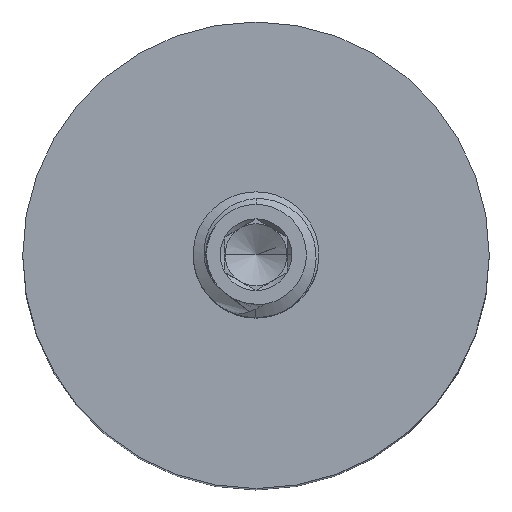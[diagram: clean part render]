
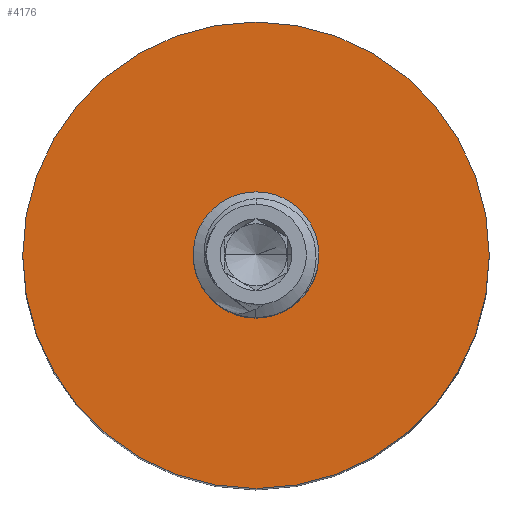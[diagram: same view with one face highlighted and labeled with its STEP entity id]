
A CAD part, top view. The second image highlights one B-rep face of the part: STEP entity #4176.
In plain terms, the highlighted planar face has unit normal (0, 0, 1).
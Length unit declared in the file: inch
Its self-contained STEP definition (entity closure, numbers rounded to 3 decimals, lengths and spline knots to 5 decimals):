
#376 = ORIENTED_EDGE ( 'NONE', *, *, #4825, .T. ) ;
#472 = FACE_OUTER_BOUND ( 'NONE', #6415, .T. ) ;
#568 = CIRCLE ( 'NONE', #1936, 0.3525 ) ;
#1050 = CARTESIAN_POINT ( 'NONE',  ( -0.0795, 0., 0. ) ) ;
#1097 = DIRECTION ( 'NONE',  ( 0., 0., 1. ) ) ;
#1143 = EDGE_LOOP ( 'NONE', ( #8242, #7017 ) ) ;
#1420 = CARTESIAN_POINT ( 'NONE',  ( 0., 0., 0. ) ) ;
#1501 = DIRECTION ( 'NONE',  ( -1., 0., 0. ) ) ;
#1849 = ORIENTED_EDGE ( 'NONE', *, *, #4934, .T. ) ;
#1936 = AXIS2_PLACEMENT_3D ( 'NONE', #3259, #7695, #3893 ) ;
#2072 = DIRECTION ( 'NONE',  ( 1., 0., 0. ) ) ;
#2144 = VERTEX_POINT ( 'NONE', #5598 ) ;
#2176 = FACE_BOUND ( 'NONE', #1143, .T. ) ;
#2888 = CARTESIAN_POINT ( 'NONE',  ( -0.3525, 0., 0. ) ) ;
#2952 = CARTESIAN_POINT ( 'NONE',  ( 0.0795, 0., 0. ) ) ;
#2968 = DIRECTION ( 'NONE',  ( 0., 0., 1. ) ) ;
#3259 = CARTESIAN_POINT ( 'NONE',  ( 0., 0., 0. ) ) ;
#3355 = VERTEX_POINT ( 'NONE', #2888 ) ;
#3399 = AXIS2_PLACEMENT_3D ( 'NONE', #4906, #1097, #5551 ) ;
#3644 = AXIS2_PLACEMENT_3D ( 'NONE', #1420, #5867, #2072 ) ;
#3893 = DIRECTION ( 'NONE',  ( 1., 0., 0. ) ) ;
#4176 = ADVANCED_FACE ( 'NONE', ( #2176, #472 ), #4675, .F. ) ;
#4384 = EDGE_CURVE ( 'NONE', #4401, #7426, #4762, .T. ) ;
#4401 = VERTEX_POINT ( 'NONE', #1050 ) ;
#4675 = PLANE ( 'NONE',  #6253 ) ;
#4762 = CIRCLE ( 'NONE', #5268, 0.0795 ) ;
#4825 = EDGE_CURVE ( 'NONE', #2144, #3355, #568, .T. ) ;
#4906 = CARTESIAN_POINT ( 'NONE',  ( 0., 0., 0. ) ) ;
#4934 = EDGE_CURVE ( 'NONE', #3355, #2144, #5056, .T. ) ;
#5056 = CIRCLE ( 'NONE', #3644, 0.3525 ) ;
#5268 = AXIS2_PLACEMENT_3D ( 'NONE', #6772, #2968, #7408 ) ;
#5296 = CARTESIAN_POINT ( 'NONE',  ( 0., 0., 0. ) ) ;
#5321 = DIRECTION ( 'NONE',  ( 0., 0., -1. ) ) ;
#5551 = DIRECTION ( 'NONE',  ( 1., 0., 0. ) ) ;
#5598 = CARTESIAN_POINT ( 'NONE',  ( 0.3525, 0., 0. ) ) ;
#5867 = DIRECTION ( 'NONE',  ( 0., 0., 1. ) ) ;
#6253 = AXIS2_PLACEMENT_3D ( 'NONE', #5296, #5321, #1501 ) ;
#6415 = EDGE_LOOP ( 'NONE', ( #376, #1849 ) ) ;
#6772 = CARTESIAN_POINT ( 'NONE',  ( 0., 0., 0. ) ) ;
#7017 = ORIENTED_EDGE ( 'NONE', *, *, #4384, .F. ) ;
#7408 = DIRECTION ( 'NONE',  ( 1., 0., 0. ) ) ;
#7426 = VERTEX_POINT ( 'NONE', #2952 ) ;
#7599 = CIRCLE ( 'NONE', #3399, 0.0795 ) ;
#7628 = EDGE_CURVE ( 'NONE', #7426, #4401, #7599, .T. ) ;
#7695 = DIRECTION ( 'NONE',  ( 0., 0., 1. ) ) ;
#8242 = ORIENTED_EDGE ( 'NONE', *, *, #7628, .F. ) ;
